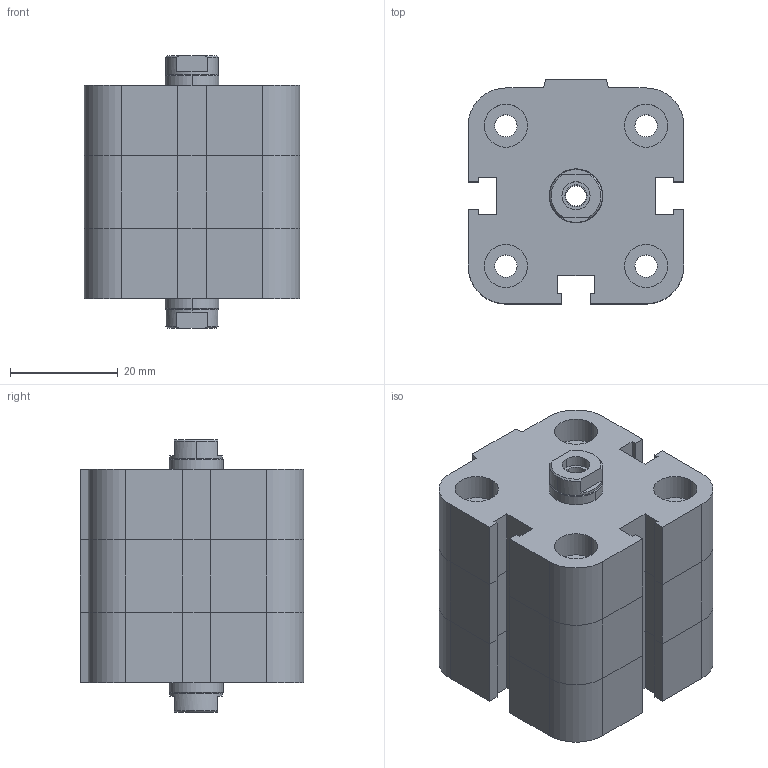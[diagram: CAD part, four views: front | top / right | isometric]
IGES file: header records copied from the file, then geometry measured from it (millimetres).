
Global section: file name: No Iges File Name specified; native system: Autodesk Inventor 2009; preprocessor: AutoDesk Inventor Iges Exporter R2009; author: maffial1; date: 20090420.201153; units: millimetre
Bounding box: 40 x 41.5 x 50.5 mm (x, y, z)
Volume: 54785.4 mm3; surface area: 16498.8 mm2
Topology: 2 solids, 2 shells, 188 faces, 432 edges, 262 vertices
Faces by surface type: plane 110, bspline 40, cylinder 18, revolution 12, cone 8
